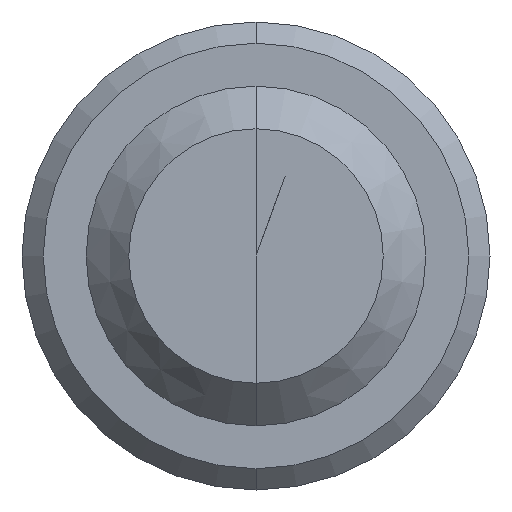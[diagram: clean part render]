
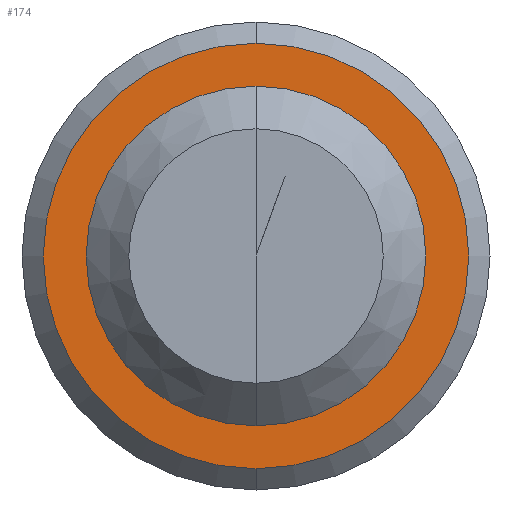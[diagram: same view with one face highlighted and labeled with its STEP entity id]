
A CAD part, front view. The second image highlights one B-rep face of the part: STEP entity #174.
In plain terms, the highlighted planar face has unit normal (0, -1, 0).
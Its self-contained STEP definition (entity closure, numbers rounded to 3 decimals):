
#73 = AXIS2_PLACEMENT_3D ( 'NONE', #1028, #1003, #1035 ) ;
#75 = CIRCLE ( 'NONE', #81, 1.002 ) ;
#76 = CIRCLE ( 'NONE', #73, 0.552 ) ;
#81 = AXIS2_PLACEMENT_3D ( 'NONE', #960, #972, #961 ) ;
#111 = CIRCLE ( 'NONE', #116, 1.002 ) ;
#116 = AXIS2_PLACEMENT_3D ( 'NONE', #1044, #1090, #1050 ) ;
#132 = EDGE_CURVE ( 'NONE', #668, #650, #75, .T. ) ;
#135 = EDGE_CURVE ( 'NONE', #655, #702, #76, .T. ) ;
#147 = EDGE_CURVE ( 'NONE', #650, #668, #111, .T. ) ;
#172 = EDGE_CURVE ( 'NONE', #702, #655, #1297, .T. ) ;
#174 = ADVANCED_FACE ( 'NONE', ( #1156, #1158 ), #1142, .F. ) ;
#650 = VERTEX_POINT ( 'NONE', #1492 ) ;
#655 = VERTEX_POINT ( 'NONE', #1470 ) ;
#668 = VERTEX_POINT ( 'NONE', #1491 ) ;
#702 = VERTEX_POINT ( 'NONE', #1495 ) ;
#788 = ORIENTED_EDGE ( 'NONE', *, *, #172, .F. ) ;
#816 = ORIENTED_EDGE ( 'NONE', *, *, #135, .F. ) ;
#831 = ORIENTED_EDGE ( 'NONE', *, *, #132, .T. ) ;
#878 = ORIENTED_EDGE ( 'NONE', *, *, #147, .T. ) ;
#936 = EDGE_LOOP ( 'NONE', ( #831, #878 ) ) ;
#958 = EDGE_LOOP ( 'NONE', ( #788, #816 ) ) ;
#960 = CARTESIAN_POINT ( 'NONE',  ( 0., -3.246, 0. ) ) ;
#961 = DIRECTION ( 'NONE',  ( 0., 0., -1. ) ) ;
#972 = DIRECTION ( 'NONE',  ( 0., -1., 0. ) ) ;
#1003 = DIRECTION ( 'NONE',  ( 0., -1., 0. ) ) ;
#1028 = CARTESIAN_POINT ( 'NONE',  ( 0., -3.246, 0. ) ) ;
#1035 = DIRECTION ( 'NONE',  ( 0., 0., -1. ) ) ;
#1044 = CARTESIAN_POINT ( 'NONE',  ( 0., -3.246, 0. ) ) ;
#1050 = DIRECTION ( 'NONE',  ( 0., 0., -1. ) ) ;
#1090 = DIRECTION ( 'NONE',  ( 0., -1., 0. ) ) ;
#1142 = PLANE ( 'NONE',  #1284 ) ;
#1143 = DIRECTION ( 'NONE',  ( 0., 0., 1. ) ) ;
#1154 = DIRECTION ( 'NONE',  ( 0., -1., 0. ) ) ;
#1156 = FACE_BOUND ( 'NONE', #958, .T. ) ;
#1158 = FACE_OUTER_BOUND ( 'NONE', #936, .T. ) ;
#1164 = DIRECTION ( 'NONE',  ( 0., 0., -1. ) ) ;
#1165 = DIRECTION ( 'NONE',  ( 0., 1., 0. ) ) ;
#1170 = CARTESIAN_POINT ( 'NONE',  ( -1.002, -3.246, 0. ) ) ;
#1171 = CARTESIAN_POINT ( 'NONE',  ( 0., -3.246, 0. ) ) ;
#1284 = AXIS2_PLACEMENT_3D ( 'NONE', #1170, #1165, #1143 ) ;
#1297 = CIRCLE ( 'NONE', #1304, 0.552 ) ;
#1304 = AXIS2_PLACEMENT_3D ( 'NONE', #1171, #1154, #1164 ) ;
#1470 = CARTESIAN_POINT ( 'NONE',  ( 0., -3.246, 0.552 ) ) ;
#1491 = CARTESIAN_POINT ( 'NONE',  ( 0., -3.246, 1.002 ) ) ;
#1492 = CARTESIAN_POINT ( 'NONE',  ( 0., -3.246, -1.002 ) ) ;
#1495 = CARTESIAN_POINT ( 'NONE',  ( 0., -3.246, -0.552 ) ) ;
